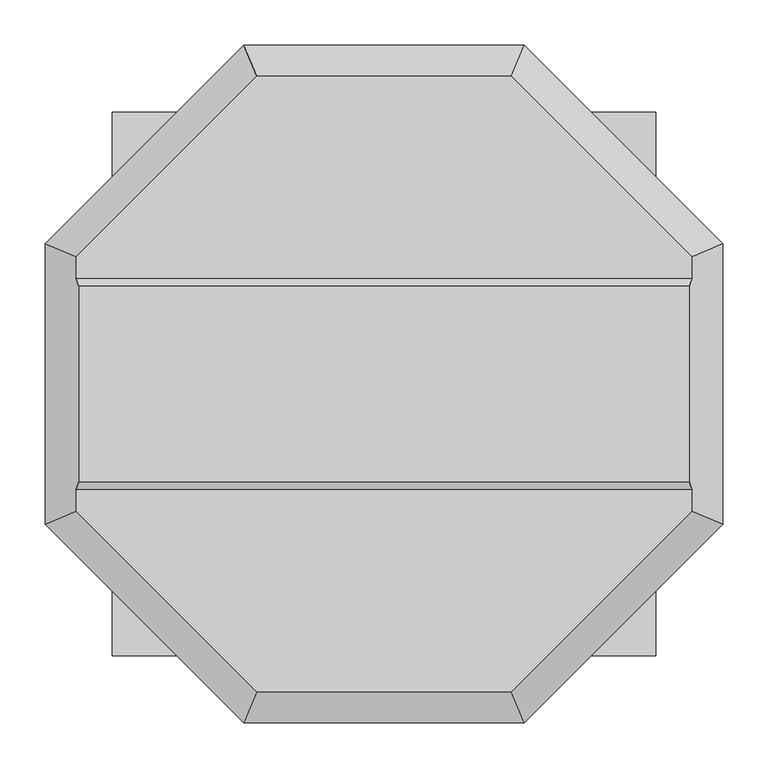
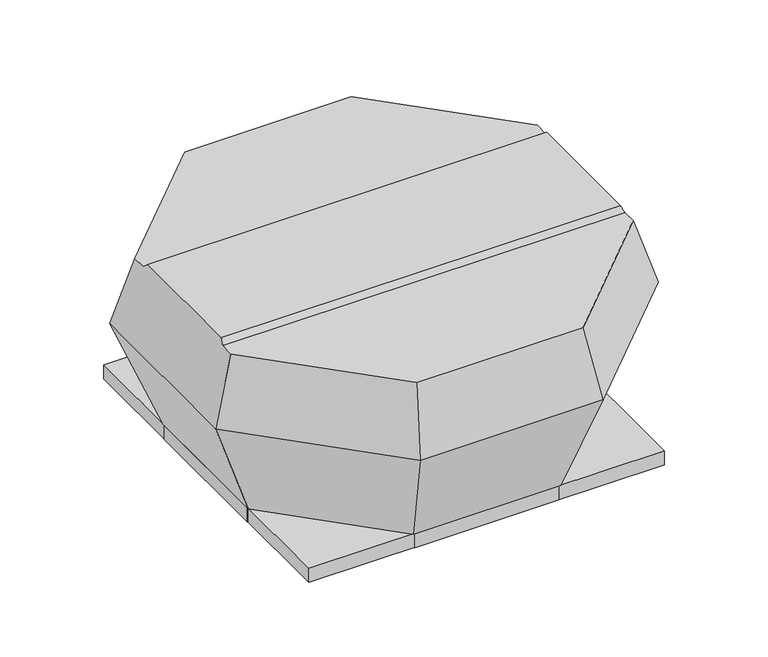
"""IFC4 building model written with IfcOpenShell, lengths in millimetres: unitary equipment geometry, VE-Wentylator-ParaForma-Harmann-VIVO-Wywiewny : 4-355/3000S."""

from ifc_helpers import new_model, si_unit, origin, place, context, project, spatial, faceted_brep, source, transform, mapped, element, save


def unitary_equipment_d106bbe1(model_context):
    return source(origin(), model_context, "Body", "Brep", [
        faceted_brep([(336.2116348, -107.5, 309.5), (336.2116348, 107.5, 309.5), (-336.2116348, 107.5, 309.5), (-336.2116348, -107.5, 309.5), (338.7141628, 115.75, 301.2), (-338.7141628, 115.75, 301.2), (338.7141628, -115.75, 301.2), (-338.7141628, -115.75, 301.2), (140.3, -338.7141628, 301.2), (338.7141628, -140.3, 301.2), (-338.7141628, -140.3, 301.2), (-140.3, -338.7141628, 301.2), (338.7141628, 140.3, 301.2), (140.3, 338.7141628, 301.2), (-140.3, 338.7141628, 301.2), (-338.7141628, 140.3, 301.2), (154.4, -372.754574, 188.3), (372.754574, -154.4, 188.3), (372.754574, 154.4, 188.3), (154.4, 372.754574, 188.3), (-154.4, 372.754574, 188.3), (-372.754574, 154.4, 188.3), (-372.754574, -154.4, 188.3), (-154.4, -372.754574, 188.3), (124.3, -300.0867458, 1.5), (-124.3, -300.0867458, 1.5), (-300.0867458, -124.3, 1.5), (-300.0867458, 124.3, 1.5), (-124.3, 300.0867458, 1.5), (124.3, 300.0867458, 1.5), (300.0867458, 124.3, 1.5), (300.0867458, -124.3, 1.5)], [[[0, 1, 2, 3]], [[1, 4, 5, 2]], [[6, 0, 3, 7]], [[8, 9, 6, 7, 10, 11]], [[12, 13, 14, 15, 5, 4]], [[9, 8, 16, 17]], [[9, 17, 18, 12, 4, 1, 0, 6]], [[13, 12, 18, 19]], [[14, 13, 19, 20]], [[15, 14, 20, 21]], [[15, 21, 22, 10, 7, 3, 2, 5]], [[11, 10, 22, 23]], [[8, 11, 23, 16]], [[24, 25, 26, 27, 28, 29, 30, 31]], [[24, 31, 17, 16]], [[31, 30, 18, 17]], [[30, 29, 19, 18]], [[29, 28, 20, 19]], [[28, 27, 21, 20]], [[27, 26, 22, 21]], [[26, 25, 23, 22]], [[25, 24, 16, 23]]]),
        faceted_brep([(297.5, 297.5, -23.5), (297.5, 297.5, 0.0), (-297.5, 297.5, 0.0), (-297.5, 297.5, -23.5), (299.0, 299.0, 1.5), (299.0, 299.0, -23.5), (-299.0, 299.0, -23.5), (-299.0, 299.0, 1.5), (-297.5, -297.5, 0.0), (-297.5, -297.5, -23.5), (-299.0, -299.0, -23.5), (-299.0, -299.0, 1.5), (297.5, -297.5, 0.0), (297.5, -297.5, -23.5), (299.0, -299.0, -23.5), (299.0, -299.0, 1.5)], [[[0, 1, 2, 3]], [[4, 5, 6, 7]], [[3, 2, 8, 9]], [[7, 6, 10, 11]], [[9, 8, 12, 13]], [[11, 10, 14, 15]], [[13, 12, 1, 0]], [[5, 14, 10, 6], [3, 9, 13, 0]], [[15, 14, 5, 4]], [[7, 11, 15, 4]], [[1, 12, 8, 2]]]),
        faceted_brep([(-299.0, -121.3, -23.5), (-300.0, -121.3, -23.5), (-300.0, 121.3, -23.5), (-299.0, 121.3, -23.5), (-299.0, -121.3, 1.5), (-299.0, 121.3, 1.5), (-300.0, 121.3, 1.5), (-300.0, -121.3, 1.5)], [[[0, 1, 2, 3]], [[4, 5, 6, 7]], [[1, 0, 4, 7]], [[2, 1, 7, 6]], [[3, 2, 6, 5]], [[0, 3, 5, 4]]]),
        faceted_brep([(300.0, -121.3, -23.5), (299.0, -121.3, -23.5), (299.0, 121.3, -23.5), (300.0, 121.3, -23.5), (300.0, 121.3, 1.5), (299.0, 121.3, 1.5), (299.0, 5.0, 1.5), (299.0, -5.0, 1.5), (299.0, -121.3, 1.5), (300.0, -121.3, 1.5), (300.0, -5.0, 1.5), (300.0, 5.0, 1.5)], [[[0, 1, 2, 3]], [[4, 5, 6, 7, 8, 9, 10, 11]], [[1, 0, 9, 8]], [[2, 1, 8, 7, 6, 5]], [[3, 2, 5, 4]], [[0, 3, 4, 11, 10, 9]]]),
        faceted_brep([(121.3, 299.0, -23.5), (-121.3, 299.0, -23.5), (-121.3, 300.0, -23.5), (121.3, 300.0, -23.5), (121.3, 299.0, 1.5), (121.3, 300.0, 1.5), (-121.3, 300.0, 1.5), (-121.3, 299.0, 1.5)], [[[0, 1, 2, 3]], [[4, 5, 6, 7]], [[1, 0, 4, 7]], [[2, 1, 7, 6]], [[3, 2, 6, 5]], [[0, 3, 5, 4]]]),
        faceted_brep([(121.3, -300.0, -23.5), (-121.3, -300.0, -23.5), (-121.3, -299.0, -23.5), (121.3, -299.0, -23.5), (121.3, -300.0, 1.5), (121.3, -299.0, 1.5), (-121.3, -299.0, 1.5), (-121.3, -300.0, 1.5)], [[[0, 1, 2, 3]], [[4, 5, 6, 7]], [[1, 0, 4, 7]], [[2, 1, 7, 6]], [[3, 2, 6, 5]], [[0, 3, 5, 4]]]),
    ])


if __name__ == "__main__":
    model = new_model("IFC4")
    model_context = context("Model", 3, world=origin())
    ifc_project = project(units=[si_unit("LENGTHUNIT", "METRE", prefix="MILLI")], contexts=[model_context])
    site = spatial("IfcSite", under=ifc_project)
    building = spatial("IfcBuilding", under=site)
    placement = place(None, origin())
    unitary_equipment_shape = unitary_equipment_d106bbe1(model_context)
    element("IfcUnitaryEquipment", 1, ObjectType="VE-Wentylator-ParaForma-Harmann-VIVO-Wywiewny : 4-355/3000S", at=placement, inside=building, context=model_context, shape_type="MappedRepresentation", body=[
        mapped(unitary_equipment_shape, transform((0.0, 0.0, 0.0), x_axis=(1.0, 0.0, 0.0), y_axis=(0.0, 1.0, 0.0), z_axis=(0.0, 0.0, 1.0))),
    ])
    save(model, "model.ifc")
